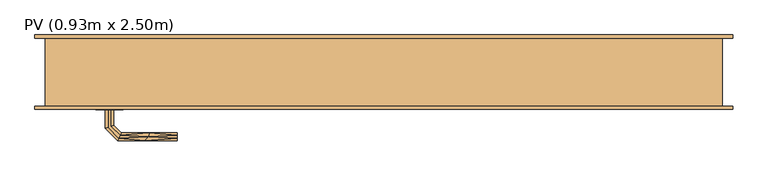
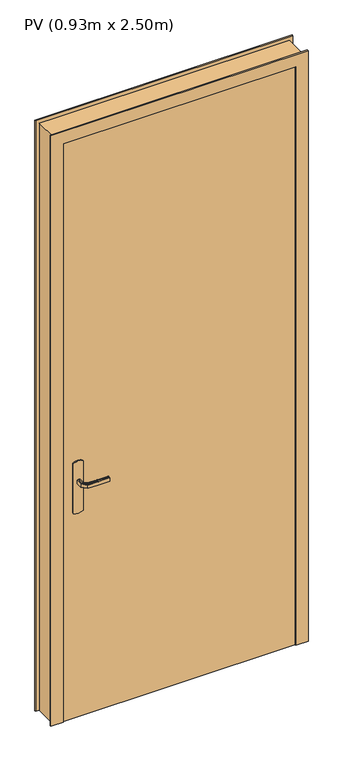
"""IFC4 building model written with IfcOpenShell, lengths in millimetres: door geometry, PV (0.93m x 2.50m)."""

from ifc_helpers import new_model, si_unit, frame, origin, origin_with_axes, place, context, project, spatial, polyline, outline, extrude, faceted_brep, source, transform, mapped, element, save


def pv_0_93m_x_2_50m_4747d497(model_context):
    return source(origin(), model_context, "Body", "SolidModel", [
        extrude(outline(polyline([(866.0039831, 105.3527618), (870.0, 115.0), (1080.0, 115.0), (1083.9960169, 105.3527618), (1085.3589838, 95.0), (1083.9960169, 84.6472382), (1080.0, 75.0), (870.0, 75.0), (866.0039831, 84.6472382), (864.6410162, 95.0), (866.0039831, 105.3527618)])), frame((0.0, -5.0, 0.0), z_axis=(0.0, 1.0, 0.0), x_axis=(0.0, 0.0, 1.0)), (0.0, 0.0, 1.0), 5.0),
        extrude(outline(polyline([(35.0, 40.0), (965.0, 40.0), (965.0, 0.0), (35.0, 0.0), (35.0, 40.0)])), origin_with_axes(), (0.0, 0.0, 1.0), 2450.0),
        extrude(outline(polyline([(866.0039831, 105.3527618), (870.0, 115.0), (1080.0, 115.0), (1083.9960169, 105.3527618), (1085.3589838, 95.0), (1083.9960169, 84.6472382), (1080.0, 75.0), (870.0, 75.0), (866.0039831, 84.6472382), (864.6410162, 95.0), (866.0039831, 105.3527618)])), frame((0.0, 40.0, 0.0), z_axis=(0.0, 1.0, 0.0), x_axis=(0.0, 0.0, 1.0)), (0.0, 0.0, 1.0), 5.0),
        faceted_brep([(92.9747013, -5.0, 1007.7804408), (97.0252987, -5.0, 1007.7804408), (101.0, -5.0, 1007.0), (101.0, -5.0, 993.0), (97.0252987, -5.0, 992.2195592), (92.9747013, -5.0, 992.2195592), (89.0, -5.0, 993.0), (89.0, -5.0, 1007.0), (89.0, -32.6509507, 1007.0), (92.9747013, -31.0045755, 1007.7804408), (109.0235852, -47.0534593, 1007.7804408), (110.7013975, -43.002862, 1007.7804408), (97.0252987, -29.3267632, 1007.7804408), (101.0, -27.680388, 1007.0), (101.0, -27.680388, 993.0), (97.0252987, -29.3267632, 992.2195592), (110.7013975, -43.002862, 992.2195592), (109.0235852, -47.0534593, 992.2195592), (92.9747013, -31.0045755, 992.2195592), (89.0, -32.6509507, 993.0), (107.37721, -51.0281607, 1007.0), (112.3477727, -39.0281607, 1007.0), (112.3477727, -39.0281607, 993.0), (107.37721, -51.0281607, 993.0), (195.0186406, -51.0281607, 993.0), (195.0186406, -47.0534593, 992.2195592), (195.0186406, -43.002862, 992.2195592), (195.0186406, -39.0281607, 993.0), (195.0186406, -39.0281607, 1007.0), (195.0186406, -43.002862, 1007.7804408), (195.0186406, -47.0534593, 1007.7804408), (195.0186406, -51.0281607, 1007.0), (147.3076972, -51.0281607, 1007.0), (152.8600191, -45.0281607, 1007.8786868), (153.6832067, -39.0281607, 1007.0), (153.6832067, -39.0281607, 993.0), (152.8600189, -45.0281608, 992.1213132), (147.3077002, -51.0281607, 993.0)], [[[0, 1, 2, 3, 4, 5, 6, 7]], [[8, 9, 0, 7]], [[9, 10, 11, 12, 1, 0]], [[12, 13, 2, 1]], [[3, 2, 13, 14]], [[14, 15, 4, 3]], [[15, 16, 17, 18, 5, 4]], [[18, 19, 6, 5]], [[7, 6, 19, 8]], [[20, 10, 9, 8]], [[11, 21, 13, 12]], [[14, 13, 21, 22]], [[22, 16, 15, 14]], [[17, 23, 19, 18]], [[8, 19, 23, 20]], [[24, 25, 26, 27, 28, 29, 30, 31]], [[32, 30, 33]], [[31, 30, 32]], [[10, 20, 32]], [[33, 34, 11]], [[21, 11, 34]], [[34, 29, 28]], [[30, 29, 33]], [[29, 34, 33]], [[10, 32, 33]], [[10, 33, 11]], [[22, 21, 34, 28, 27, 35]], [[35, 26, 36]], [[37, 36, 25]], [[22, 35, 16]], [[35, 27, 26]], [[24, 37, 25]], [[23, 17, 37]], [[37, 17, 36]], [[17, 16, 36]], [[16, 35, 36]], [[25, 36, 26]], [[20, 23, 37, 24, 31, 32]]]),
        faceted_brep([(0.0, 100.0, 0.0), (-15.0, 100.0, 0.0), (-15.0, 105.0, 0.0), (50.0, 105.0, 0.0), (50.0, 40.0, 0.0), (35.0, 40.0, 0.0), (35.0, -5.0, 0.0), (-15.0, -5.0, 0.0), (-15.0, 0.0, 0.0), (0.0, 0.0, 0.0), (0.0, 100.0, 2485.0), (1000.0, 100.0, 2485.0), (1000.0, 100.0, 0.0), (1015.0, 100.0, 0.0), (1015.0, 100.0, 2500.0), (-15.0, 100.0, 2500.0), (-15.0, 105.0, 2500.0), (1015.0, 105.0, 2500.0), (1015.0, 105.0, 0.0), (950.0, 105.0, 0.0), (950.0, 105.0, 2435.0), (50.0, 105.0, 2435.0), (50.0, 40.0, 2435.0), (950.0, 40.0, 2435.0), (950.0, 40.0, 0.0), (965.0, 40.0, 0.0), (965.0, 40.0, 2450.0), (35.0, 40.0, 2450.0), (35.0, -5.0, 2450.0), (965.0, -5.0, 2450.0), (965.0, -5.0, 0.0), (1015.0, -5.0, 0.0), (1015.0, -5.0, 2500.0), (-15.0, -5.0, 2500.0), (-15.0, 0.0, 2500.0), (1015.0, 0.0, 2500.0), (1015.0, 0.0, 0.0), (1000.0, 0.0, 0.0), (1000.0, 0.0, 2485.0), (0.0, 0.0, 2485.0)], [[[0, 1, 2, 3, 4, 5, 6, 7, 8, 9]], [[1, 0, 10, 11, 12, 13, 14, 15]], [[2, 1, 15, 16]], [[3, 2, 16, 17, 18, 19, 20, 21]], [[3, 21, 22, 4]], [[5, 4, 22, 23, 24, 25, 26, 27]], [[5, 27, 28, 6]], [[7, 6, 28, 29, 30, 31, 32, 33]], [[8, 7, 33, 34]], [[9, 8, 34, 35, 36, 37, 38, 39]], [[0, 9, 39, 10]], [[11, 38, 37, 12]], [[12, 37, 36, 31, 30, 25, 24, 19, 18, 13]], [[17, 14, 13, 18]], [[23, 20, 19, 24]], [[29, 26, 25, 30]], [[35, 32, 31, 36]], [[16, 15, 14, 17]], [[22, 21, 20, 23]], [[28, 27, 26, 29]], [[34, 33, 32, 35]], [[10, 39, 38, 11]]]),
        faceted_brep([(92.9747013, 45.0, 1007.7804408), (89.0, 45.0, 1007.0), (89.0, 45.0, 993.0), (92.9747013, 45.0, 992.2195592), (97.0252987, 45.0, 992.2195592), (101.0, 45.0, 993.0), (101.0, 45.0, 1007.0), (97.0252987, 45.0, 1007.7804408), (101.0, 67.4852045, 993.0), (101.0, 67.4852045, 1007.0), (97.0252987, 69.1315797, 1007.7804408), (110.8389062, 82.9451872, 1007.7804408), (109.1610938, 86.9957845, 1007.7804408), (92.9747013, 70.8093921, 1007.7804408), (89.0, 72.4557673, 1007.0), (89.0, 72.4557673, 993.0), (92.9747013, 70.8093921, 992.2195592), (109.1610938, 86.9957845, 992.2195592), (110.8389062, 82.9451872, 992.2195592), (97.0252987, 69.1315797, 992.2195592), (112.4852814, 78.9704859, 993.0), (112.4852814, 78.9704859, 1007.0), (107.5147186, 90.9704859, 1007.0), (107.5147186, 90.9704859, 993.0), (195.0457837, 78.9704859, 993.0), (195.0457837, 82.9451872, 992.2195592), (195.0457837, 86.9957845, 992.2195592), (195.0457837, 90.9704859, 993.0), (195.0457837, 90.9704859, 1007.0), (195.0457837, 86.9957845, 1007.7804408), (195.0457837, 82.9451872, 1007.7804408), (195.0457837, 78.9704859, 1007.0), (153.7655206, 78.9704859, 993.0), (153.7655325, 78.9704859, 1007.0), (152.9423449, 84.9704859, 1007.8786868), (147.4452058, 90.9704859, 1007.0), (147.4452043, 90.9704859, 993.0), (152.9423451, 84.9704858, 992.1213132)], [[[0, 1, 2, 3, 4, 5, 6, 7]], [[6, 5, 8, 9]], [[9, 10, 7, 6]], [[10, 11, 12, 13, 0, 7]], [[13, 14, 1, 0]], [[2, 1, 14, 15]], [[15, 16, 3, 2]], [[16, 17, 18, 19, 4, 3]], [[19, 8, 5, 4]], [[9, 8, 20, 21]], [[21, 11, 10, 9]], [[12, 22, 14, 13]], [[15, 14, 22, 23]], [[23, 17, 16, 15]], [[18, 20, 8, 19]], [[24, 25, 26, 27, 28, 29, 30, 31]], [[21, 20, 32, 24, 31, 33]], [[33, 30, 34]], [[35, 34, 29]], [[21, 33, 11]], [[33, 31, 30]], [[28, 35, 29]], [[22, 12, 35]], [[35, 12, 34]], [[12, 11, 34]], [[11, 33, 34]], [[29, 34, 30]], [[22, 35, 28, 27, 36, 23]], [[36, 26, 37]], [[27, 26, 36]], [[17, 23, 36]], [[37, 32, 18]], [[20, 18, 32]], [[32, 25, 24]], [[26, 25, 37]], [[25, 32, 37]], [[17, 36, 37]], [[17, 37, 18]]]),
    ])


if __name__ == "__main__":
    model = new_model("IFC4")
    model_context = context("Model", 3, world=origin())
    ifc_project = project(units=[si_unit("LENGTHUNIT", "METRE", prefix="MILLI")], contexts=[model_context])
    site = spatial("IfcSite", under=ifc_project)
    building = spatial("IfcBuilding", under=site)
    placement = place(None, origin())
    pv_0_93m_x_2_50m_shape = pv_0_93m_x_2_50m_4747d497(model_context)
    element("IfcDoor", 1, ObjectType="PV (0.93m x 2.50m)", at=placement, inside=building, context=model_context, shape_type="MappedRepresentation", body=[
        mapped(pv_0_93m_x_2_50m_shape, transform((0.0, 0.0, 0.0), x_axis=(1.0, 0.0, 0.0), y_axis=(0.0, 1.0, 0.0), z_axis=(0.0, 0.0, 1.0))),
    ])
    save(model, "model.ifc")
